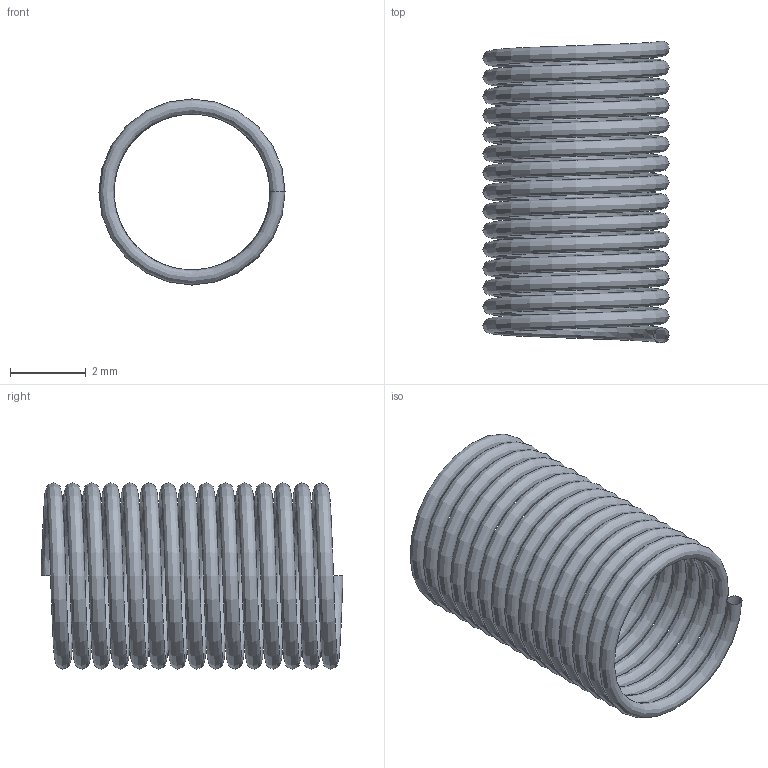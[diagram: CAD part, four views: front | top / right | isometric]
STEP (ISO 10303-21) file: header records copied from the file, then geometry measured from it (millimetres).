
FILE_DESCRIPTION(/* description */ ('STEP AP242 Edition 2','CAx-IF Rec.Pracs.---Representation and Presentation of Product Manufacturing Information (PMI)---4.0---2014-10-13','CAx-IF Rec.Pracs.---3D Tessellated Geometry---0.4---2014-09-14','2;1','CAx-IF Rec.Pracs.---User Defined Attributes---1.5---2016-08-15'),/* implementation_level */ '2;1');
FILE_NAME(/* name */ 'Final Build - Spring',/* time_stamp */ '2026-08-31T23:26:27Z',/* author */ (''),/* organization */ (''),/* preprocessor_version */ 'ST-DEVELOPER v20',/* originating_system */ 'ONSHAPE BY PTC INC, 1.220',/* authorisation */ ' ');
FILE_SCHEMA (('AP242_MANAGED_MODEL_BASED_3D_ENGINEERING_MIM_LF { 1 0 10303 442 3 1 4 }'));
Length unit declared in the file: metre
Products named in the file (1): Spring
Bounding box: 4.9 x 7.95 x 4.9 mm (x, y, z)
Surface area: 265.8 mm2 (no closed solid volume)
Topology: 0 solids, 1 shells, 1 faces, 3 edges, 2 vertices
Faces by surface type: bspline 1
Entity records: 1320 total; most frequent: CARTESIAN_POINT 1272, DIRECTION 6, AXIS2_PLACEMENT_3D 3, ORIENTED_EDGE 2, EDGE_CURVE 2, VERTEX_POINT 2, CIRCLE 2, EDGE_LOOP 2
